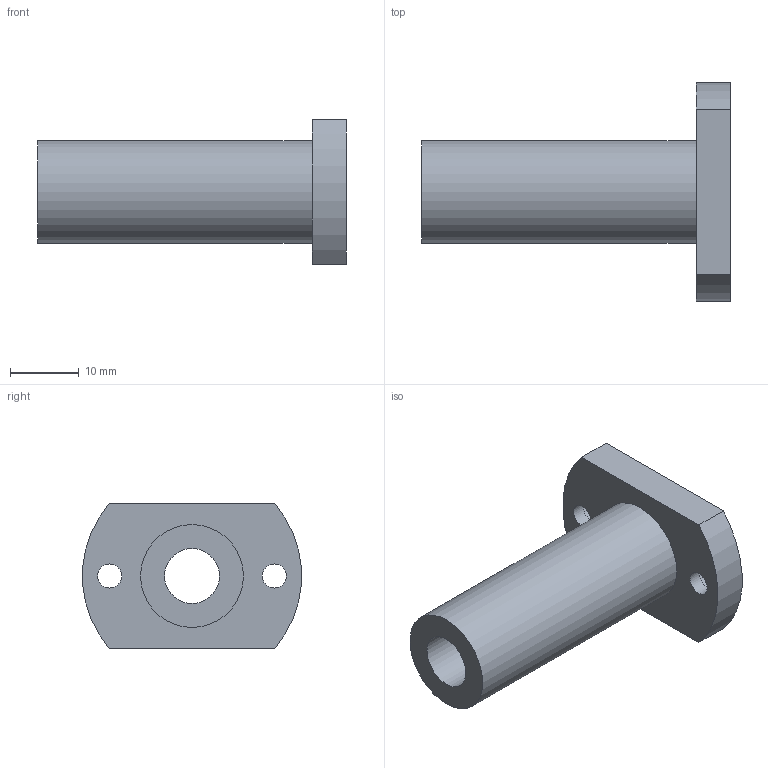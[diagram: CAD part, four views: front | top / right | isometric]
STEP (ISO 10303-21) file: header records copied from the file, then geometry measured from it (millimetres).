
FILE_DESCRIPTION(/* description */ ('Unknown'),/* implementation_level */ '2;1');
FILE_NAME(/* name */ 'LMH8LUU',/* time_stamp */ '2025-02-04T10:26:41+08:00',/* author */ ('Unknown'),/* organization */ ('Unknown'),/* preprocessor_version */ 'ST-DEVELOPER v18.102',/* originating_system */ 'Solid Edge',/* authorisation */ 'Unknown');
FILE_SCHEMA (('AUTOMOTIVE_DESIGN {1 0 10303 214 3 1 1}'));
Length unit declared in the file: millimetre
Products named in the file (1): LMH8LUU
Bounding box: 45 x 31.9 x 21 mm (x, y, z)
Volume: 7695 mm3; surface area: 4746.2 mm2
Topology: 1 solids, 1 shells, 15 faces, 30 edges, 20 vertices
Faces by surface type: cylinder 8, plane 7
Full cylindrical faces by diameter (mm): 3.5 x2, 6 x2, 8 x1, 15 x1
Entity records: 412 total; most frequent: DIRECTION 72, CARTESIAN_POINT 60, ORIENTED_EDGE 48, AXIS2_PLACEMENT_3D 32, EDGE_LOOP 30, FACE_BOUND 30, EDGE_CURVE 24, VERTEX_POINT 20
